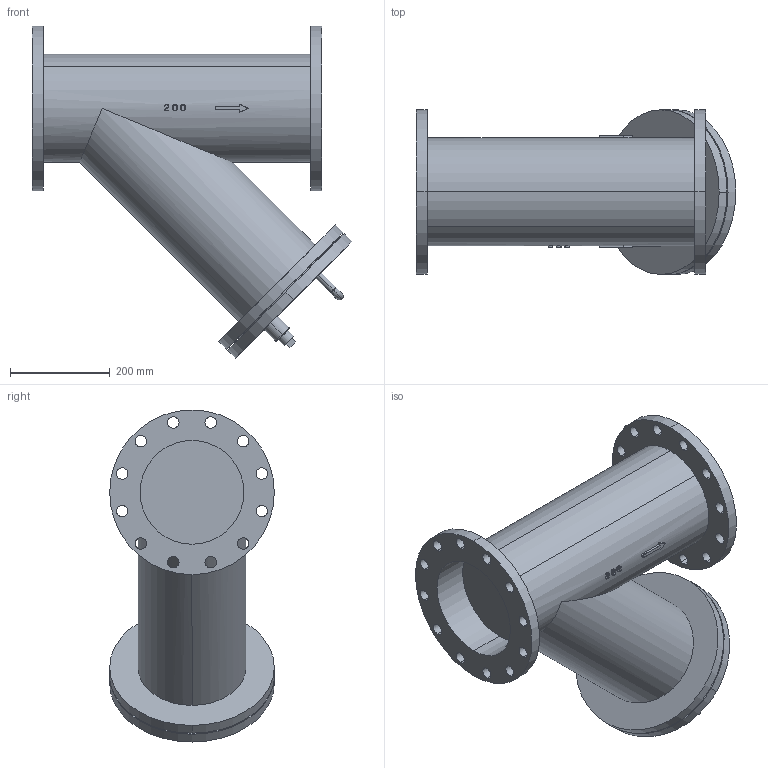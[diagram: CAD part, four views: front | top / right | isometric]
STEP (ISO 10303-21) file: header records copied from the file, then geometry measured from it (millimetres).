
FILE_DESCRIPTION( (''), '2;1');
FILE_NAME ('PC1056.13592.SY-13(200A)_21628.stp','2024-07-31T17:31:18',(''),(''),'spGate 19.8.4 (****-****-****-****)','','');
FILE_SCHEMA (('AUTOMOTIVE_DESIGN'));
Length unit declared in the file: millimetre
Products named in the file (11): Assembly; SY13(200A)本体P; 200Aカバー; PC1056-prt2; PC1056-prt3; PC1056-prt4; PC1056-prt5; PC1056-prt6; 200A取っ手_M6; 200A取っ手_M7; プラグ　20A
Assembly tree (12 placements, depth 2):
  Assembly
    SY13(200A)本体P
    200Aカバー
    PC1056-prt2
    PC1056-prt3
    PC1056-prt4
    PC1056-prt5  x2
    PC1056-prt6
    200A取っ手_M6  x2
    200A取っ手_M7
    プラグ　20A
Bounding box: 640.37 x 330 x 665.37 mm (x, y, z)
Volume: 34429269.3 mm3; surface area: 1402475.5 mm2
Topology: 6 solids, 6 shells, 207 faces, 495 edges, 324 vertices
Faces by surface type: cylinder 110, plane 57, bspline 40
Entity records: 12464 total; most frequent: CARTESIAN_POINT 3844, ORIENTED_EDGE 958, DIRECTION 887, COLOUR_RGB 690, PRESENTATION_STYLE_ASSIGNMENT 690, STYLED_ITEM 690, DRAUGHTING_PRE_DEFINED_CURVE_FONT 484, CURVE_STYLE 484
